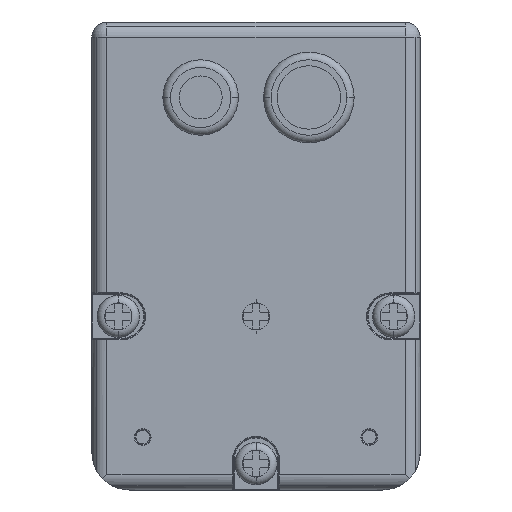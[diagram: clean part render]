
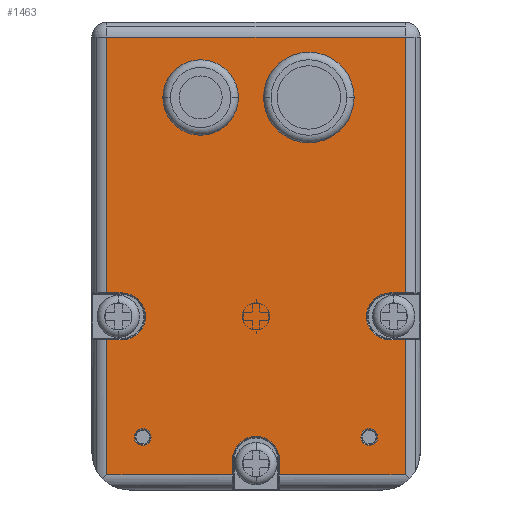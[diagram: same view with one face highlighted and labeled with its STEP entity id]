
A CAD part, left-side view. The second image highlights one B-rep face of the part: STEP entity #1463.
In plain terms, the highlighted planar face has unit normal (-1, 0, 0).
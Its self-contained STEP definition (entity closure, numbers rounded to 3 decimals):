
#1463=ADVANCED_FACE('',(#3120,#3121,#3122),#3123,.F.);
#3120=FACE_OUTER_BOUND('',#5584,.T.);
#3121=FACE_BOUND('',#5585,.T.);
#3122=FACE_BOUND('',#5586,.T.);
#3123=PLANE('',#5587);
#5584=EDGE_LOOP('',(#9580,#9581,#9582,#9583,#9584,#9585,#9586,#9587,#9588,#9589,#9590,#9591,#9592,#9593,#9594,#9595,#9596));
#5585=EDGE_LOOP('',(#9597,#9598));
#5586=EDGE_LOOP('',(#9599,#9600));
#5587=AXIS2_PLACEMENT_3D('',#9601,#9602,#9603);
#9580=ORIENTED_EDGE('',*,*,#13524,.F.);
#9581=ORIENTED_EDGE('',*,*,#12523,.F.);
#9582=ORIENTED_EDGE('',*,*,#13592,.F.);
#9583=ORIENTED_EDGE('',*,*,#13878,.F.);
#9584=ORIENTED_EDGE('',*,*,#13598,.F.);
#9585=ORIENTED_EDGE('',*,*,#13879,.F.);
#9586=ORIENTED_EDGE('',*,*,#12888,.F.);
#9587=ORIENTED_EDGE('',*,*,#13880,.F.);
#9588=ORIENTED_EDGE('',*,*,#13089,.F.);
#9589=ORIENTED_EDGE('',*,*,#13805,.F.);
#9590=ORIENTED_EDGE('',*,*,#13690,.F.);
#9591=ORIENTED_EDGE('',*,*,#13881,.F.);
#9592=ORIENTED_EDGE('',*,*,#13882,.F.);
#9593=ORIENTED_EDGE('',*,*,#13883,.F.);
#9594=ORIENTED_EDGE('',*,*,#13884,.F.);
#9595=ORIENTED_EDGE('',*,*,#13885,.F.);
#9596=ORIENTED_EDGE('',*,*,#13886,.F.);
#9597=ORIENTED_EDGE('',*,*,#13887,.F.);
#9598=ORIENTED_EDGE('',*,*,#13888,.F.);
#9599=ORIENTED_EDGE('',*,*,#13401,.F.);
#9600=ORIENTED_EDGE('',*,*,#13889,.F.);
#9601=CARTESIAN_POINT('',(-11.55,164.996,0.1));
#9602=DIRECTION('',(1.0,0.0,0.0));
#9603=DIRECTION('',(0.0,0.0,-1.0));
#12523=EDGE_CURVE('',#14718,#14720,#14721,.T.);
#12888=EDGE_CURVE('',#15354,#15356,#15357,.T.);
#13089=EDGE_CURVE('',#15689,#15691,#15692,.T.);
#13401=EDGE_CURVE('',#16172,#16168,#16174,.T.);
#13524=EDGE_CURVE('',#14720,#16364,#16365,.T.);
#13592=EDGE_CURVE('',#16318,#14718,#16467,.T.);
#13598=EDGE_CURVE('',#16472,#16475,#16476,.T.);
#13690=EDGE_CURVE('',#16612,#16614,#16615,.T.);
#13805=EDGE_CURVE('',#16614,#15689,#16775,.T.);
#13878=EDGE_CURVE('',#16475,#16318,#16870,.T.);
#13879=EDGE_CURVE('',#15356,#16472,#16871,.T.);
#13880=EDGE_CURVE('',#15691,#15354,#16872,.T.);
#13881=EDGE_CURVE('',#15832,#16612,#16873,.T.);
#13882=EDGE_CURVE('',#16874,#15832,#16875,.T.);
#13883=EDGE_CURVE('',#15402,#16874,#16876,.T.);
#13884=EDGE_CURVE('',#16877,#15402,#16878,.T.);
#13885=EDGE_CURVE('',#16879,#16877,#16880,.T.);
#13886=EDGE_CURVE('',#16364,#16879,#16881,.T.);
#13887=EDGE_CURVE('',#16882,#16883,#16884,.T.);
#13888=EDGE_CURVE('',#16883,#16882,#16885,.T.);
#13889=EDGE_CURVE('',#16168,#16172,#16886,.T.);
#14718=VERTEX_POINT('',#17897);
#14720=VERTEX_POINT('',#17899);
#14721=LINE('',#17900,#17901);
#15354=VERTEX_POINT('',#18752);
#15356=VERTEX_POINT('',#18754);
#15357=LINE('',#18755,#18756);
#15402=VERTEX_POINT('',#18817);
#15689=VERTEX_POINT('',#19175);
#15691=VERTEX_POINT('',#19177);
#15692=LINE('',#19178,#19179);
#15832=VERTEX_POINT('',#19367);
#16168=VERTEX_POINT('',#19824);
#16172=VERTEX_POINT('',#19828);
#16174=CIRCLE('',#19830,1.1);
#16318=VERTEX_POINT('',#20127);
#16364=VERTEX_POINT('',#20190);
#16365=LINE('',#20191,#20192);
#16467=LINE('',#20346,#20347);
#16472=VERTEX_POINT('',#20352);
#16475=VERTEX_POINT('',#20355);
#16476=CIRCLE('',#20356,3.1);
#16612=VERTEX_POINT('',#20560);
#16614=VERTEX_POINT('',#20562);
#16615=CIRCLE('',#20563,3.1);
#16775=LINE('',#20860,#20861);
#16870=LINE('',#20984,#20985);
#16871=CIRCLE('',#20986,3.1);
#16872=LINE('',#20987,#20988);
#16873=LINE('',#20989,#20990);
#16874=VERTEX_POINT('',#20991);
#16875=LINE('',#20992,#20993);
#16876=LINE('',#20994,#20995);
#16877=VERTEX_POINT('',#20996);
#16878=LINE('',#20997,#20998);
#16879=VERTEX_POINT('',#20999);
#16880=LINE('',#21000,#21001);
#16881=CIRCLE('',#21002,3.1);
#16882=VERTEX_POINT('',#21003);
#16883=VERTEX_POINT('',#21004);
#16884=CIRCLE('',#21005,1.1);
#16885=CIRCLE('',#21006,1.1);
#16886=CIRCLE('',#21007,1.1);
#17897=CARTESIAN_POINT('',(-11.55,184.746,-28.9));
#17899=CARTESIAN_POINT('',(-11.55,184.746,-11.));
#17900=CARTESIAN_POINT('',(-11.55,184.746,0.1));
#17901=VECTOR('',#22219,1.0);
#18752=CARTESIAN_POINT('',(-11.55,161.896,-28.9));
#18754=CARTESIAN_POINT('',(-11.55,161.896,-26.9));
#18755=CARTESIAN_POINT('',(-11.55,161.896,-13.65));
#18756=VECTOR('',#22766,1.0);
#18817=CARTESIAN_POINT('',(-11.55,184.746,29.1));
#19175=CARTESIAN_POINT('',(-11.55,145.246,-11.));
#19177=CARTESIAN_POINT('',(-11.55,145.246,-28.9));
#19178=CARTESIAN_POINT('',(-11.55,145.246,0.1));
#19179=VECTOR('',#23083,1.0);
#19367=CARTESIAN_POINT('',(-11.55,145.246,-4.8));
#19824=CARTESIAN_POINT('',(-11.55,179.996,-25.));
#19828=CARTESIAN_POINT('',(-11.55,179.996,-22.8));
#19830=AXIS2_PLACEMENT_3D('',#23519,#23520,#23521);
#20127=CARTESIAN_POINT('',(-11.55,168.096,-28.9));
#20190=CARTESIAN_POINT('',(-11.55,182.746,-11.));
#20191=CARTESIAN_POINT('',(-11.55,174.121,-11.));
#20192=VECTOR('',#23704,1.0);
#20346=CARTESIAN_POINT('',(-11.55,164.996,-28.9));
#20347=VECTOR('',#23796,1.0);
#20352=CARTESIAN_POINT('',(-11.55,164.996,-23.8));
#20355=CARTESIAN_POINT('',(-11.55,168.096,-26.9));
#20356=AXIS2_PLACEMENT_3D('',#23803,#23804,#23805);
#20560=CARTESIAN_POINT('',(-11.55,147.246,-4.8));
#20562=CARTESIAN_POINT('',(-11.55,147.246,-11.));
#20563=AXIS2_PLACEMENT_3D('',#23925,#23926,#23927);
#20860=CARTESIAN_POINT('',(-11.55,155.871,-11.));
#20861=VECTOR('',#24062,1.0);
#20984=CARTESIAN_POINT('',(-11.55,168.096,-13.65));
#20985=VECTOR('',#24163,1.0);
#20986=AXIS2_PLACEMENT_3D('',#24164,#24165,#24166);
#20987=CARTESIAN_POINT('',(-11.55,164.996,-28.9));
#20988=VECTOR('',#24167,1.0);
#20989=CARTESIAN_POINT('',(-11.55,155.871,-4.8));
#20990=VECTOR('',#24168,1.0);
#20991=CARTESIAN_POINT('',(-11.55,145.246,29.1));
#20992=CARTESIAN_POINT('',(-11.55,145.246,0.1));
#20993=VECTOR('',#24169,1.0);
#20994=CARTESIAN_POINT('',(-11.55,164.996,29.1));
#20995=VECTOR('',#24170,1.0);
#20996=CARTESIAN_POINT('',(-11.55,184.746,-4.8));
#20997=CARTESIAN_POINT('',(-11.55,184.746,0.1));
#20998=VECTOR('',#24171,1.0);
#20999=CARTESIAN_POINT('',(-11.55,182.746,-4.8));
#21000=CARTESIAN_POINT('',(-11.55,174.121,-4.8));
#21001=VECTOR('',#24172,1.0);
#21002=AXIS2_PLACEMENT_3D('',#24173,#24174,#24175);
#21003=CARTESIAN_POINT('',(-11.55,149.996,-22.8));
#21004=CARTESIAN_POINT('',(-11.55,149.996,-25.));
#21005=AXIS2_PLACEMENT_3D('',#24176,#24177,#24178);
#21006=AXIS2_PLACEMENT_3D('',#24179,#24180,#24181);
#21007=AXIS2_PLACEMENT_3D('',#24182,#24183,#24184);
#22219=DIRECTION('',(0.0,0.0,1.0));
#22766=DIRECTION('',(0.0,0.0,1.0));
#23083=DIRECTION('',(0.0,0.0,-1.0));
#23519=CARTESIAN_POINT('',(-11.55,179.996,-23.9));
#23520=DIRECTION('',(-1.0,0.0,0.0));
#23521=DIRECTION('',(0.0,0.0,-1.0));
#23704=DIRECTION('',(0.0,-1.0,0.0));
#23796=DIRECTION('',(0.0,1.0,0.0));
#23803=CARTESIAN_POINT('',(-11.55,164.996,-26.9));
#23804=DIRECTION('',(-1.0,0.0,0.0));
#23805=DIRECTION('',(0.0,0.0,1.0));
#23925=CARTESIAN_POINT('',(-11.55,147.246,-7.9));
#23926=DIRECTION('',(-1.0,0.0,0.0));
#23927=DIRECTION('',(0.0,1.0,0.));
#24062=DIRECTION('',(0.0,-1.0,0.0));
#24163=DIRECTION('',(0.0,0.0,-1.0));
#24164=CARTESIAN_POINT('',(-11.55,164.996,-26.9));
#24165=DIRECTION('',(-1.0,0.0,0.0));
#24166=DIRECTION('',(0.0,0.0,1.0));
#24167=DIRECTION('',(0.0,1.0,0.0));
#24168=DIRECTION('',(0.0,1.0,0.0));
#24169=DIRECTION('',(0.0,0.0,-1.0));
#24170=DIRECTION('',(0.0,-1.0,0.0));
#24171=DIRECTION('',(0.0,0.0,1.0));
#24172=DIRECTION('',(0.0,1.0,0.0));
#24173=CARTESIAN_POINT('',(-11.55,182.746,-7.9));
#24174=DIRECTION('',(-1.0,-0.0,0.0));
#24175=DIRECTION('',(0.0,-1.0,0.));
#24176=CARTESIAN_POINT('',(-11.55,149.996,-23.9));
#24177=DIRECTION('',(-1.0,0.0,0.0));
#24178=DIRECTION('',(0.0,0.0,-1.0));
#24179=CARTESIAN_POINT('',(-11.55,149.996,-23.9));
#24180=DIRECTION('',(-1.0,0.0,0.0));
#24181=DIRECTION('',(0.0,0.0,-1.0));
#24182=CARTESIAN_POINT('',(-11.55,179.996,-23.9));
#24183=DIRECTION('',(-1.0,0.0,0.0));
#24184=DIRECTION('',(0.0,0.0,-1.0));
